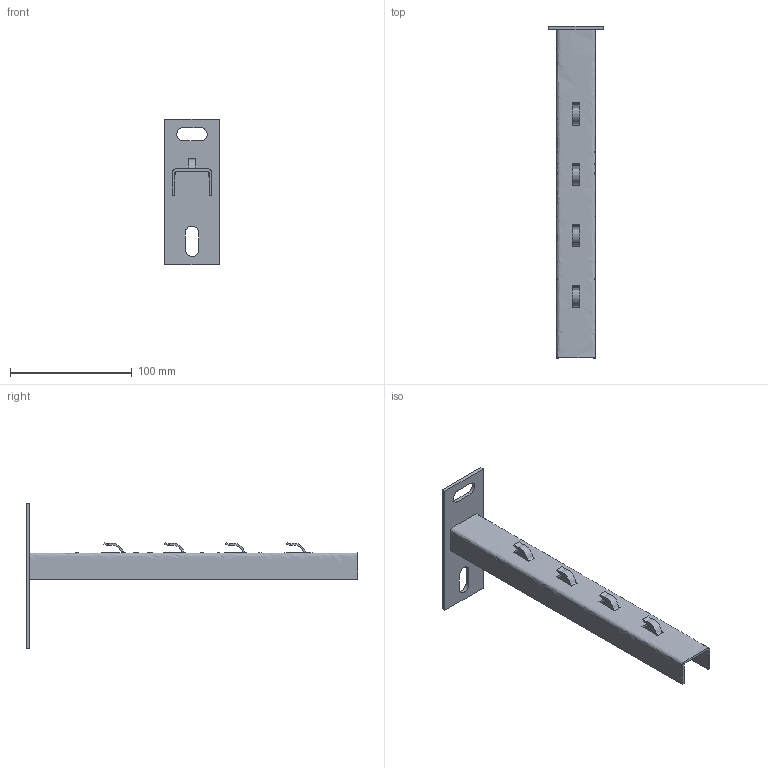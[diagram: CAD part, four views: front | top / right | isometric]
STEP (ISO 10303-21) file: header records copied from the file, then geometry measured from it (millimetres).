
FILE_DESCRIPTION(/* description */ (''),/* implementation_level */ '2;1');
FILE_NAME(/* name */ 'NPZM250',/* time_stamp */ '2013-11-22T10:24:54+01:00',/* author */ (''),/* organization */ (''),/* preprocessor_version */ 'ST-DEVELOPER v10',/* originating_system */ '',/* authorisation */ '');
FILE_SCHEMA (('AUTOMOTIVE_DESIGN_CC2'));
Length unit declared in the file: millimetre
Products named in the file (1): 1
Bounding box: 45 x 273 x 120 mm (x, y, z)
Volume: 50314.7 mm3; surface area: 51823.5 mm2
Topology: 6 solids, 6 shells, 88 faces, 244 edges, 168 vertices
Faces by surface type: bspline 78, plane 10
Entity records: 4366 total; most frequent: CARTESIAN_POINT 2949, ORIENTED_EDGE 456, EDGE_CURVE 228, VERTEX_POINT 152, B_SPLINE_CURVE_WITH_KNOTS 112, EDGE_LOOP 100, ADVANCED_FACE 88, FACE_OUTER_BOUND 88
